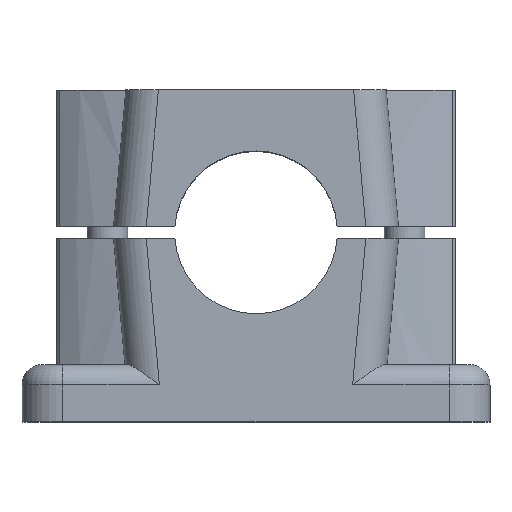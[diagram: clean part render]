
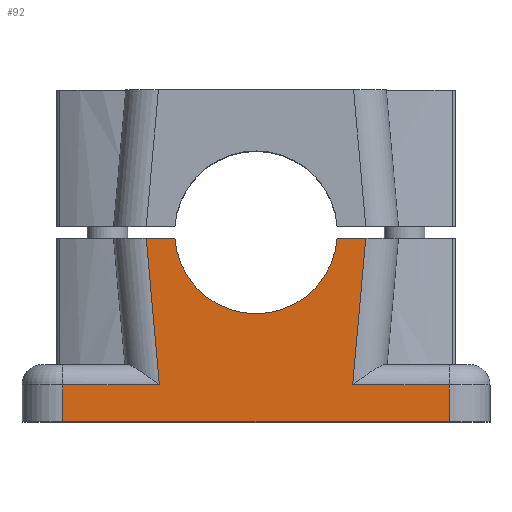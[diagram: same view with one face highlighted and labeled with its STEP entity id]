
A CAD part, top view. The second image highlights one B-rep face of the part: STEP entity #92.
In plain terms, the highlighted planar face has unit normal (0, 0, 1).
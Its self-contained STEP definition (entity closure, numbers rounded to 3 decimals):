
#92 = ADVANCED_FACE( '', ( #339 ), #340, .T. );
#339 = FACE_OUTER_BOUND( '', #839, .T. );
#340 = PLANE( '', #840 );
#839 = EDGE_LOOP( '', ( #1453, #1454, #1455, #1456, #1457, #1458, #1459, #1460, #1461, #1462 ) );
#840 = AXIS2_PLACEMENT_3D( '', #1463, #1464, #1465 );
#1453 = ORIENTED_EDGE( '', *, *, #3200, .T. );
#1454 = ORIENTED_EDGE( '', *, *, #3201, .T. );
#1455 = ORIENTED_EDGE( '', *, *, #3202, .T. );
#1456 = ORIENTED_EDGE( '', *, *, #3203, .F. );
#1457 = ORIENTED_EDGE( '', *, *, #3204, .T. );
#1458 = ORIENTED_EDGE( '', *, *, #3205, .T. );
#1459 = ORIENTED_EDGE( '', *, *, #3171, .F. );
#1460 = ORIENTED_EDGE( '', *, *, #3206, .F. );
#1461 = ORIENTED_EDGE( '', *, *, #3120, .T. );
#1462 = ORIENTED_EDGE( '', *, *, #3207, .T. );
#1463 = CARTESIAN_POINT( '', ( 0., 0., 38. ) );
#1464 = DIRECTION( '', ( 0., 0., 1. ) );
#1465 = DIRECTION( '', ( 1., 0., 0. ) );
#3120 = EDGE_CURVE( '', #3701, #3699, #3702, .T. );
#3171 = EDGE_CURVE( '', #3791, #3779, #3793, .T. );
#3200 = EDGE_CURVE( '', #3850, #3851, #3852, .T. );
#3201 = EDGE_CURVE( '', #3851, #3853, #3854, .F. );
#3202 = EDGE_CURVE( '', #3853, #3855, #3856, .T. );
#3203 = EDGE_CURVE( '', #3857, #3855, #3858, .T. );
#3204 = EDGE_CURVE( '', #3857, #3859, #3860, .T. );
#3205 = EDGE_CURVE( '', #3859, #3779, #3861, .T. );
#3206 = EDGE_CURVE( '', #3701, #3791, #3862, .T. );
#3207 = EDGE_CURVE( '', #3699, #3850, #3863, .T. );
#3699 = VERTEX_POINT( '', #4702 );
#3701 = VERTEX_POINT( '', #4725 );
#3702 = LINE( '', #4726, #4727 );
#3779 = VERTEX_POINT( '', #4822 );
#3791 = VERTEX_POINT( '', #4837 );
#3793 = LINE( '', #4839, #4840 );
#3850 = VERTEX_POINT( '', #4909 );
#3851 = VERTEX_POINT( '', #4910 );
#3852 = LINE( '', #4911, #4912 );
#3853 = VERTEX_POINT( '', #4913 );
#3854 = CIRCLE( '', #4914, 20. );
#3855 = VERTEX_POINT( '', #4915 );
#3856 = LINE( '', #4916, #4917 );
#3857 = VERTEX_POINT( '', #4918 );
#3858 = LINE( '', #4919, #4920 );
#3859 = VERTEX_POINT( '', #4921 );
#3860 = LINE( '', #4922, #4923 );
#3861 = LINE( '', #4924, #4925 );
#3862 = LINE( '', #4926, #4927 );
#3863 = LINE( '', #4928, #4929 );
#4702 = CARTESIAN_POINT( '', ( 23.749, -37.5, 38. ) );
#4725 = CARTESIAN_POINT( '', ( 47.5, -37.5, 38. ) );
#4726 = CARTESIAN_POINT( '', ( 47.5, -37.5, 38. ) );
#4727 = VECTOR( '', #6059, 1000. );
#4822 = CARTESIAN_POINT( '', ( -47.5, -46.5, 38. ) );
#4837 = CARTESIAN_POINT( '', ( 47.5, -46.5, 38. ) );
#4839 = CARTESIAN_POINT( '', ( 47.5, -46.5, 38. ) );
#4840 = VECTOR( '', #6168, 1000. );
#4909 = CARTESIAN_POINT( '', ( 26.973, -1.5, 38. ) );
#4910 = CARTESIAN_POINT( '', ( 19.944, -1.5, 38. ) );
#4911 = CARTESIAN_POINT( '', ( 0., -1.5, 38. ) );
#4912 = VECTOR( '', #6229, 1000. );
#4913 = CARTESIAN_POINT( '', ( -19.944, -1.5, 38. ) );
#4914 = AXIS2_PLACEMENT_3D( '', #6230, #6231, #6232 );
#4915 = CARTESIAN_POINT( '', ( -26.973, -1.5, 38. ) );
#4916 = CARTESIAN_POINT( '', ( 0., -1.5, 38. ) );
#4917 = VECTOR( '', #6233, 1000. );
#4918 = CARTESIAN_POINT( '', ( -23.749, -37.5, 38. ) );
#4919 = CARTESIAN_POINT( '', ( -23.693, -38.131, 38. ) );
#4920 = VECTOR( '', #6234, 1000. );
#4921 = CARTESIAN_POINT( '', ( -47.5, -37.5, 38. ) );
#4922 = CARTESIAN_POINT( '', ( 47.5, -37.5, 38. ) );
#4923 = VECTOR( '', #6235, 1000. );
#4924 = CARTESIAN_POINT( '', ( -47.5, -37.5, 38. ) );
#4925 = VECTOR( '', #6236, 1000. );
#4926 = CARTESIAN_POINT( '', ( 47.5, -37.5, 38. ) );
#4927 = VECTOR( '', #6237, 1000. );
#4928 = CARTESIAN_POINT( '', ( 23.693, -38.131, 38. ) );
#4929 = VECTOR( '', #6238, 1000. );
#6059 = DIRECTION( '', ( -1., 0., 0. ) );
#6168 = DIRECTION( '', ( -1., 0., 0. ) );
#6229 = DIRECTION( '', ( -1., 0., 0. ) );
#6230 = CARTESIAN_POINT( '', ( 0., 0., 38. ) );
#6231 = DIRECTION( '', ( 0., 0., 1. ) );
#6232 = DIRECTION( '', ( 1., 0., 0. ) );
#6233 = DIRECTION( '', ( -1., 0., 0. ) );
#6234 = DIRECTION( '', ( -0.089, 0.996, 0. ) );
#6235 = DIRECTION( '', ( -1., 0., 0. ) );
#6236 = DIRECTION( '', ( 0., -1., 0. ) );
#6237 = DIRECTION( '', ( 0., -1., 0. ) );
#6238 = DIRECTION( '', ( 0.089, 0.996, 0. ) );
